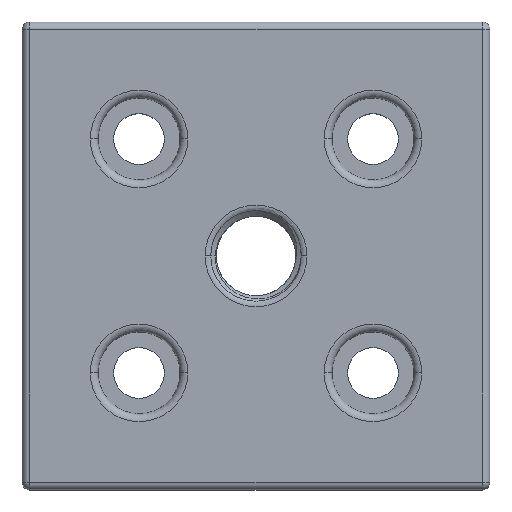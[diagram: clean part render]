
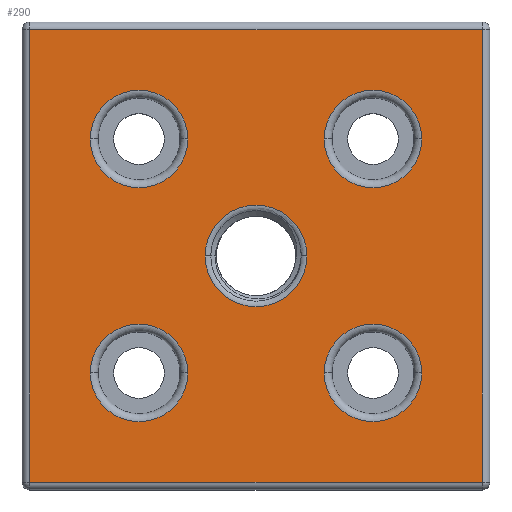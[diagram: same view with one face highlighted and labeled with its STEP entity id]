
A CAD part, top view. The second image highlights one B-rep face of the part: STEP entity #290.
In plain terms, the highlighted planar face has unit normal (0, 0, 1).
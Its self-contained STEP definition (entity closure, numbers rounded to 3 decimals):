
#99 = CARTESIAN_POINT ( 'NONE',  ( 15., -15., 6. ) ) ;
#104 = ORIENTED_EDGE ( 'NONE', *, *, #1863, .T. ) ;
#121 = VERTEX_POINT ( 'NONE', #750 ) ;
#127 = FACE_BOUND ( 'NONE', #789, .T. ) ;
#164 = LINE ( 'NONE', #3239, #1058 ) ;
#208 = LINE ( 'NONE', #3288, #1879 ) ;
#226 = VERTEX_POINT ( 'NONE', #2241 ) ;
#290 = ADVANCED_FACE ( 'NONE', ( #3374, #303, #127, #3204, #676, #863 ), #1990, .T. ) ;
#291 = DIRECTION ( 'NONE',  ( 1., 0., 0. ) ) ;
#300 = EDGE_CURVE ( 'NONE', #1599, #2899, #164, .T. ) ;
#303 = FACE_BOUND ( 'NONE', #1062, .T. ) ;
#304 = CARTESIAN_POINT ( 'NONE',  ( -30., 29., 6. ) ) ;
#349 = DIRECTION ( 'NONE',  ( 1., 0., 0. ) ) ;
#362 = VERTEX_POINT ( 'NONE', #2938 ) ;
#381 = CIRCLE ( 'NONE', #2288, 6.25 ) ;
#465 = EDGE_CURVE ( 'NONE', #362, #3094, #945, .T. ) ;
#496 = AXIS2_PLACEMENT_3D ( 'NONE', #1279, #901, #529 ) ;
#529 = DIRECTION ( 'NONE',  ( 1., 0., 0. ) ) ;
#548 = DIRECTION ( 'NONE',  ( 1., 0., 0. ) ) ;
#561 = EDGE_CURVE ( 'NONE', #2513, #2165, #1203, .T. ) ;
#585 = EDGE_LOOP ( 'NONE', ( #2627, #1387, #1765, #1889 ) ) ;
#587 = VERTEX_POINT ( 'NONE', #1052 ) ;
#588 = EDGE_CURVE ( 'NONE', #121, #1236, #674, .T. ) ;
#626 = DIRECTION ( 'NONE',  ( 1., 0., 0. ) ) ;
#658 = DIRECTION ( 'NONE',  ( 0., 0., -1. ) ) ;
#667 = DIRECTION ( 'NONE',  ( 1., 0., 0. ) ) ;
#674 = LINE ( 'NONE', #304, #3235 ) ;
#676 = FACE_OUTER_BOUND ( 'NONE', #585, .T. ) ;
#712 = CARTESIAN_POINT ( 'NONE',  ( -21.25, -15., 6. ) ) ;
#719 = DIRECTION ( 'NONE',  ( 0., 0., -1. ) ) ;
#732 = EDGE_LOOP ( 'NONE', ( #104, #2053 ) ) ;
#734 = DIRECTION ( 'NONE',  ( 1., 0., 0. ) ) ;
#749 = AXIS2_PLACEMENT_3D ( 'NONE', #1094, #719, #349 ) ;
#750 = CARTESIAN_POINT ( 'NONE',  ( 29., 29., 6. ) ) ;
#766 = VERTEX_POINT ( 'NONE', #712 ) ;
#789 = EDGE_LOOP ( 'NONE', ( #2352, #1079 ) ) ;
#855 = DIRECTION ( 'NONE',  ( 1., 0., 0. ) ) ;
#860 = AXIS2_PLACEMENT_3D ( 'NONE', #1603, #1239, #855 ) ;
#863 = FACE_BOUND ( 'NONE', #732, .T. ) ;
#901 = DIRECTION ( 'NONE',  ( 0., 0., 1. ) ) ;
#909 = EDGE_LOOP ( 'NONE', ( #1363, #2188 ) ) ;
#923 = DIRECTION ( 'NONE',  ( 0., 0., -1. ) ) ;
#945 = CIRCLE ( 'NONE', #2267, 6.25 ) ;
#961 = EDGE_CURVE ( 'NONE', #2550, #766, #381, .T. ) ;
#980 = DIRECTION ( 'NONE',  ( 0., -1., 0. ) ) ;
#1007 = DIRECTION ( 'NONE',  ( 0., 0., -1. ) ) ;
#1040 = CARTESIAN_POINT ( 'NONE',  ( -15., -15., 6. ) ) ;
#1048 = DIRECTION ( 'NONE',  ( 0., 0., -1. ) ) ;
#1052 = CARTESIAN_POINT ( 'NONE',  ( -8.75, 15., 6. ) ) ;
#1058 = VECTOR ( 'NONE', #2918, 1000. ) ;
#1062 = EDGE_LOOP ( 'NONE', ( #1867, #1454 ) ) ;
#1079 = ORIENTED_EDGE ( 'NONE', *, *, #1951, .T. ) ;
#1094 = CARTESIAN_POINT ( 'NONE',  ( -15., 15., 6. ) ) ;
#1109 = DIRECTION ( 'NONE',  ( 0., 0., -1. ) ) ;
#1203 = CIRCLE ( 'NONE', #2767, 6.25 ) ;
#1236 = VERTEX_POINT ( 'NONE', #1775 ) ;
#1239 = DIRECTION ( 'NONE',  ( 0., 0., -1. ) ) ;
#1242 = EDGE_CURVE ( 'NONE', #3094, #362, #1560, .T. ) ;
#1262 = CARTESIAN_POINT ( 'NONE',  ( -8.75, -15., 6. ) ) ;
#1279 = CARTESIAN_POINT ( 'NONE',  ( 0., 0., 6. ) ) ;
#1301 = CARTESIAN_POINT ( 'NONE',  ( 0., 0., 6. ) ) ;
#1352 = CARTESIAN_POINT ( 'NONE',  ( -29., -30., 6. ) ) ;
#1363 = ORIENTED_EDGE ( 'NONE', *, *, #561, .T. ) ;
#1375 = CARTESIAN_POINT ( 'NONE',  ( 15., 15., 6. ) ) ;
#1387 = ORIENTED_EDGE ( 'NONE', *, *, #588, .T. ) ;
#1396 = EDGE_CURVE ( 'NONE', #587, #226, #1802, .T. ) ;
#1416 = CARTESIAN_POINT ( 'NONE',  ( 15., -15., 6. ) ) ;
#1451 = EDGE_CURVE ( 'NONE', #1236, #1599, #1710, .T. ) ;
#1454 = ORIENTED_EDGE ( 'NONE', *, *, #1242, .T. ) ;
#1477 = CARTESIAN_POINT ( 'NONE',  ( -15., -15., 6. ) ) ;
#1529 = EDGE_CURVE ( 'NONE', #2165, #2513, #2577, .T. ) ;
#1551 = AXIS2_PLACEMENT_3D ( 'NONE', #1477, #1109, #734 ) ;
#1560 = CIRCLE ( 'NONE', #1903, 6.25 ) ;
#1599 = VERTEX_POINT ( 'NONE', #1839 ) ;
#1603 = CARTESIAN_POINT ( 'NONE',  ( -15., 15., 6. ) ) ;
#1696 = VERTEX_POINT ( 'NONE', #3036 ) ;
#1710 = LINE ( 'NONE', #1352, #2393 ) ;
#1715 = EDGE_CURVE ( 'NONE', #2899, #121, #208, .T. ) ;
#1735 = EDGE_CURVE ( 'NONE', #226, #587, #2796, .T. ) ;
#1765 = ORIENTED_EDGE ( 'NONE', *, *, #1451, .T. ) ;
#1775 = CARTESIAN_POINT ( 'NONE',  ( -29., 29., 6. ) ) ;
#1802 = CIRCLE ( 'NONE', #749, 6.25 ) ;
#1839 = CARTESIAN_POINT ( 'NONE',  ( -29., -29., 6. ) ) ;
#1863 = EDGE_CURVE ( 'NONE', #3346, #1696, #2568, .T. ) ;
#1866 = DIRECTION ( 'NONE',  ( 1., 0., 0. ) ) ;
#1867 = ORIENTED_EDGE ( 'NONE', *, *, #465, .T. ) ;
#1879 = VECTOR ( 'NONE', #2961, 1000. ) ;
#1889 = ORIENTED_EDGE ( 'NONE', *, *, #300, .T. ) ;
#1903 = AXIS2_PLACEMENT_3D ( 'NONE', #1416, #1048, #667 ) ;
#1951 = EDGE_CURVE ( 'NONE', #766, #2550, #2764, .T. ) ;
#1973 = CARTESIAN_POINT ( 'NONE',  ( 21.25, 15., 6. ) ) ;
#1990 = PLANE ( 'NONE',  #496 ) ;
#2053 = ORIENTED_EDGE ( 'NONE', *, *, #2202, .T. ) ;
#2057 = CARTESIAN_POINT ( 'NONE',  ( 29., -29., 6. ) ) ;
#2146 = EDGE_LOOP ( 'NONE', ( #2351, #2750 ) ) ;
#2151 = AXIS2_PLACEMENT_3D ( 'NONE', #2976, #2663, #2335 ) ;
#2165 = VERTEX_POINT ( 'NONE', #3419 ) ;
#2188 = ORIENTED_EDGE ( 'NONE', *, *, #1529, .T. ) ;
#2202 = EDGE_CURVE ( 'NONE', #1696, #3346, #3050, .T. ) ;
#2218 = DIRECTION ( 'NONE',  ( 0., 0., -1. ) ) ;
#2241 = CARTESIAN_POINT ( 'NONE',  ( -21.25, 15., 6. ) ) ;
#2267 = AXIS2_PLACEMENT_3D ( 'NONE', #99, #3184, #2865 ) ;
#2288 = AXIS2_PLACEMENT_3D ( 'NONE', #1040, #658, #291 ) ;
#2335 = DIRECTION ( 'NONE',  ( 1., 0., 0. ) ) ;
#2351 = ORIENTED_EDGE ( 'NONE', *, *, #1396, .T. ) ;
#2352 = ORIENTED_EDGE ( 'NONE', *, *, #961, .T. ) ;
#2393 = VECTOR ( 'NONE', #980, 1000. ) ;
#2513 = VERTEX_POINT ( 'NONE', #1973 ) ;
#2550 = VERTEX_POINT ( 'NONE', #1262 ) ;
#2568 = CIRCLE ( 'NONE', #2151, 6.514 ) ;
#2577 = CIRCLE ( 'NONE', #3370, 6.25 ) ;
#2627 = ORIENTED_EDGE ( 'NONE', *, *, #1715, .T. ) ;
#2663 = DIRECTION ( 'NONE',  ( 0., 0., -1. ) ) ;
#2750 = ORIENTED_EDGE ( 'NONE', *, *, #1735, .T. ) ;
#2764 = CIRCLE ( 'NONE', #1551, 6.25 ) ;
#2767 = AXIS2_PLACEMENT_3D ( 'NONE', #2880, #2218, #1866 ) ;
#2796 = CIRCLE ( 'NONE', #860, 6.25 ) ;
#2865 = DIRECTION ( 'NONE',  ( 1., 0., 0. ) ) ;
#2880 = CARTESIAN_POINT ( 'NONE',  ( 15., 15., 6. ) ) ;
#2899 = VERTEX_POINT ( 'NONE', #2057 ) ;
#2909 = AXIS2_PLACEMENT_3D ( 'NONE', #1301, #923, #548 ) ;
#2918 = DIRECTION ( 'NONE',  ( 1., 0., 0. ) ) ;
#2938 = CARTESIAN_POINT ( 'NONE',  ( 21.25, -15., 6. ) ) ;
#2961 = DIRECTION ( 'NONE',  ( 0., 1., 0. ) ) ;
#2976 = CARTESIAN_POINT ( 'NONE',  ( 0., 0., 6. ) ) ;
#3036 = CARTESIAN_POINT ( 'NONE',  ( -6.514, 0., 6. ) ) ;
#3050 = CIRCLE ( 'NONE', #2909, 6.514 ) ;
#3094 = VERTEX_POINT ( 'NONE', #3306 ) ;
#3184 = DIRECTION ( 'NONE',  ( 0., 0., -1. ) ) ;
#3204 = FACE_BOUND ( 'NONE', #2146, .T. ) ;
#3223 = CARTESIAN_POINT ( 'NONE',  ( 6.514, 0., 6. ) ) ;
#3235 = VECTOR ( 'NONE', #3377, 1000. ) ;
#3239 = CARTESIAN_POINT ( 'NONE',  ( 30., -29., 6. ) ) ;
#3288 = CARTESIAN_POINT ( 'NONE',  ( 29., 30., 6. ) ) ;
#3306 = CARTESIAN_POINT ( 'NONE',  ( 8.75, -15., 6. ) ) ;
#3346 = VERTEX_POINT ( 'NONE', #3223 ) ;
#3370 = AXIS2_PLACEMENT_3D ( 'NONE', #1375, #1007, #626 ) ;
#3374 = FACE_BOUND ( 'NONE', #909, .T. ) ;
#3377 = DIRECTION ( 'NONE',  ( -1., 0., 0. ) ) ;
#3419 = CARTESIAN_POINT ( 'NONE',  ( 8.75, 15., 6. ) ) ;
